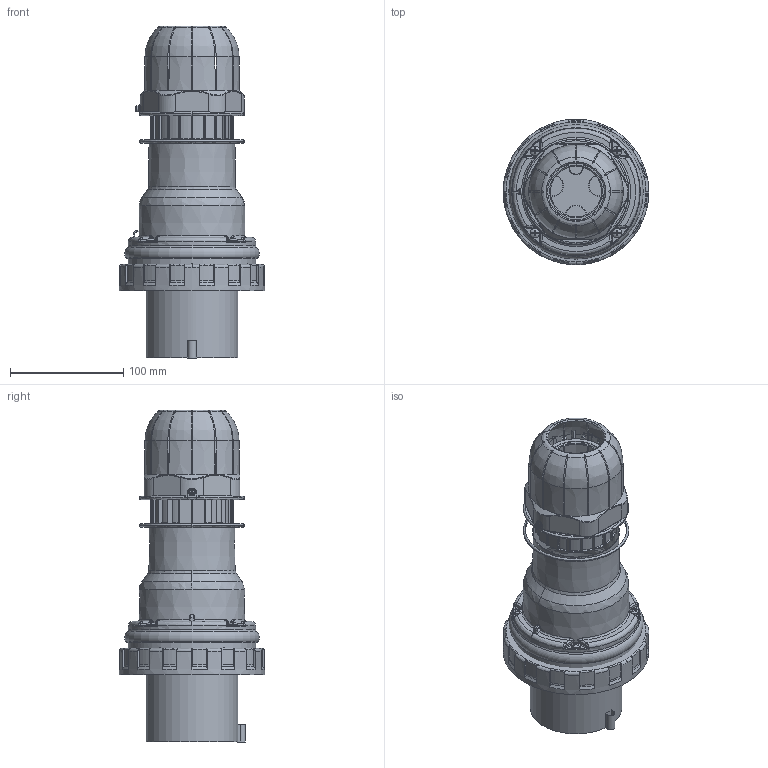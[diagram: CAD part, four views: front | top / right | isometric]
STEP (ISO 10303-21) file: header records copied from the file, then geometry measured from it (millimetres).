
FILE_DESCRIPTION(/* description */ (''),/* implementation_level */ '2;1');
FILE_NAME(/* name */ '4008205.stp',/* time_stamp */ '2017-02-23T08:08:39+01:00',/* author */ (''),/* organization */ (''),/* preprocessor_version */ 'ST-DEVELOPER v16',/* originating_system */ 'SIEMENS PLM Software NX 11.0',/* authorisation */ '');
FILE_SCHEMA (('AUTOMOTIVE_DESIGN { 1 0 10303 214 3 1 1 1 }'));
Length unit declared in the file: millimetre
Products named in the file (1): 4008205_LINKEDEXT_jt
Bounding box: 128.5 x 128.5 x 293 mm (x, y, z)
Surface area: 199351.8 mm2 (no closed solid volume)
Topology: 0 solids, 78 shells, 562 faces, 1908 edges, 1364 vertices
Faces by surface type: bspline 177, plane 143, cylinder 130, cone 59, torus 44, sphere 9
Full cylindrical faces by diameter (mm): 3.5 x1, 5.7 x1, 8.4 x4, 10 x4, 11.7 x1, 12 x2, 66.5 x1, 81 x1, 93 x1, 112.25 x1, 112.7 x1, 118.5 x1, 128.5 x1
Entity records: 44691 total; most frequent: CARTESIAN_POINT 25930, ORIENTED_EDGE 2787, DIRECTION 2438, EDGE_CURVE 1832, VERTEX_POINT 1350, AXIS2_PLACEMENT_3D 946, B_SPLINE_CURVE_WITH_KNOTS 726, PRESENTATION_STYLE_ASSIGNMENT 639
